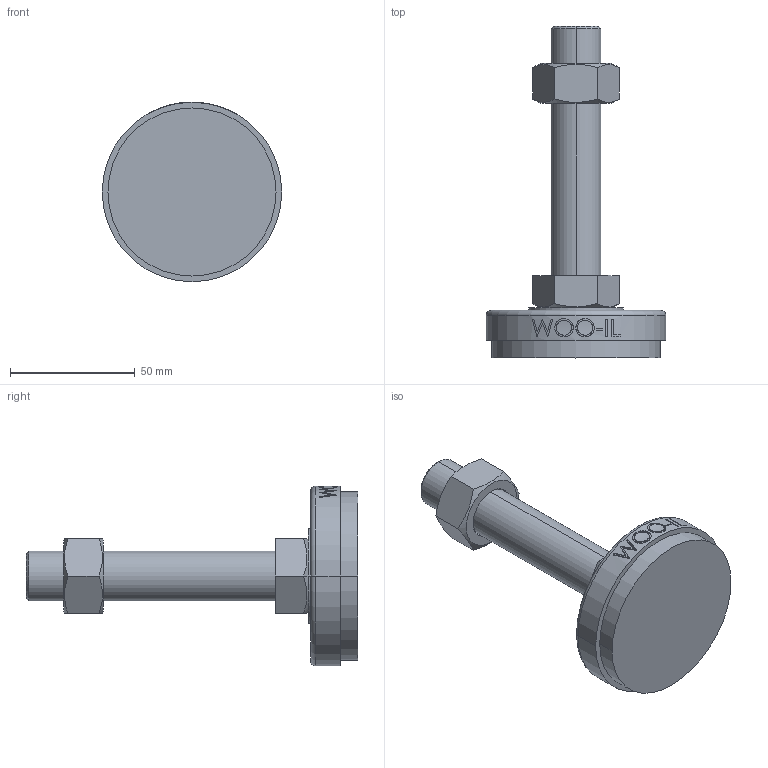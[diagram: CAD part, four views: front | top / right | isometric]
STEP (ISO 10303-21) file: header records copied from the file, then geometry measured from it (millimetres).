
FILE_DESCRIPTION (( 'STEP AP214' ), '1' );
FILE_NAME ('NS72-M20-100.step', '2021-01-11T05:48:14', ( '' ), ( '' ), 'SwSTEP 2.0', 'SolidWorks 2019', '' );
FILE_SCHEMA (( 'AUTOMOTIVE_DESIGN' ));
Length unit declared in the file: millimetre
Products named in the file (2): NS72-M20-100
Bounding box: 72 x 133 x 72 mm (x, y, z)
Volume: 123500.1 mm3; surface area: 24812.7 mm2
Topology: 3 solids, 3 shells, 96 faces, 227 edges, 148 vertices
Faces by surface type: plane 48, cylinder 18, bspline 16, cone 12, torus 2
Entity records: 4306 total; most frequent: CARTESIAN_POINT 2161, ORIENTED_EDGE 454, DIRECTION 381, EDGE_CURVE 227, VERTEX_POINT 148, AXIS2_PLACEMENT_3D 142, EDGE_LOOP 109, LINE 97
